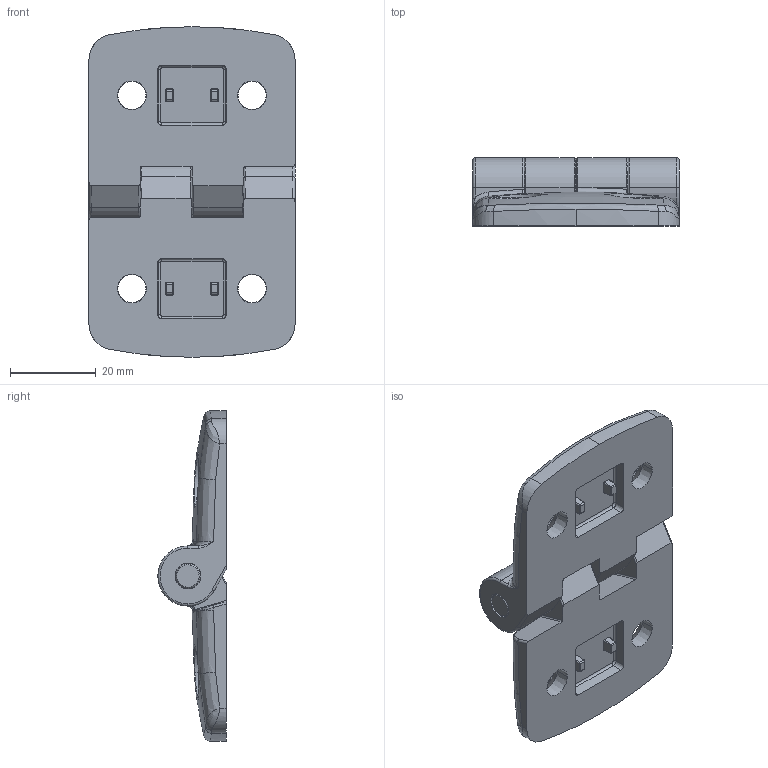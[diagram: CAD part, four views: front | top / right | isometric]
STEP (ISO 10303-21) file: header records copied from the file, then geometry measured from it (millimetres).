
FILE_DESCRIPTION (( 'STEP AP214' ), '1' );
FILE_NAME ('095a4040f.STEP', '2012-12-04T13:42:22', ( '' ), ( '' ), 'SwSTEP 2.0', 'SolidWorks 2012', '' );
FILE_SCHEMA (( 'AUTOMOTIVE_DESIGN' ));
Length unit declared in the file: millimetre
Products named in the file (3): 095a-02e_Standard; 095a40f_095A40F - 114345; 095a4040f
Assembly tree (3 placements, depth 2):
  095a4040f
    095a40f_095A40F - 114345  x2
    095a-02e_Standard
Bounding box: 48 x 15.9 x 77 mm (x, y, z)
Volume: 24819.6 mm3; surface area: 12831.1 mm2
Topology: 3 solids, 3 shells, 475 faces, 1198 edges, 719 vertices
Faces by surface type: plane 208, cylinder 135, bspline 62, torus 42, cone 28
Entity records: 11468 total; most frequent: CARTESIAN_POINT 3551, ORIENTED_EDGE 1698, DIRECTION 1589, EDGE_CURVE 849, AXIS2_PLACEMENT_3D 599, VERTEX_POINT 517, VECTOR 391, LINE 391
